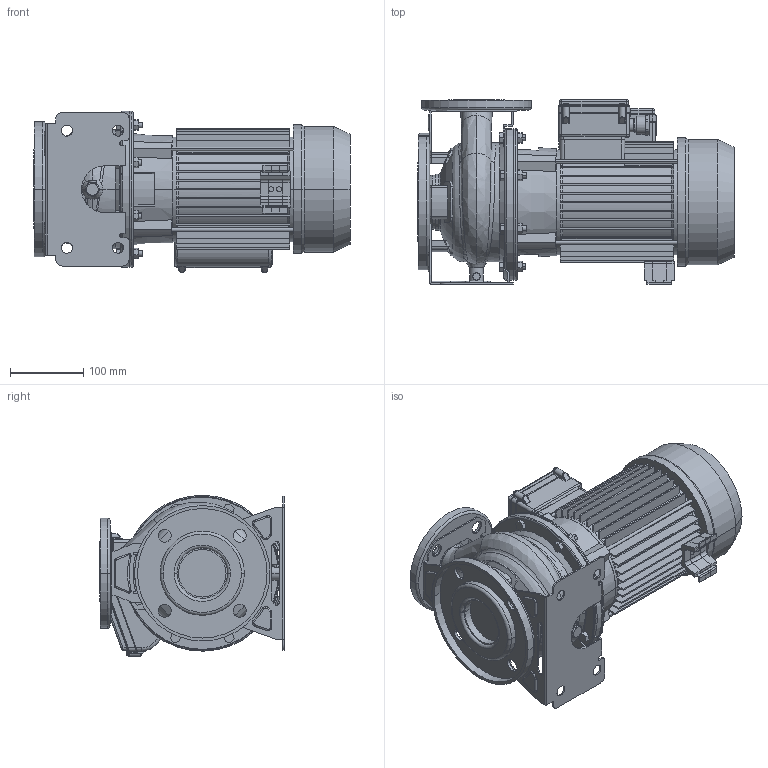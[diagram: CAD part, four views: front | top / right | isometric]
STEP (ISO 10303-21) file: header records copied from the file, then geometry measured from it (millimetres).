
FILE_DESCRIPTION((''),'2;1');
FILE_NAME('3M_40-125_2_2_M_ASM','2016-09-16T',('rosa'),('"Ebara Pumps Europe +39.444.706811"'),'PRO/ENGINEER BY PARAMETRIC TECHNOLOGY CORPORATION, 2012130','PRO/ENGINEER BY PARAMETRIC TECHNOLOGY CORPORATION, 2012130','');
FILE_SCHEMA(('AUTOMOTIVE_DESIGN { 1 0 10303 214 1 1 1 1 }'));
Length unit declared in the file: millimetre
Products named in the file (12): CORPO_40-125_AF0; ASP_40-125; FLANGIA_DIN_65; MAND_40-125; FLANGIA_DIN_40; BASE_3M_40-125; CORPO_SALDATO_40-125_ASM; SUPPORTO_3M_160_90; MEC_90X120_M; SOSTEGNO_72009; COPRIMORSETTIERA_MEC80_90_M; 3M_40-125_2_2_M_ASM
Assembly tree (12 placements, depth 3):
  3M_40-125_2_2_M_ASM
    CORPO_SALDATO_40-125_ASM
      CORPO_40-125_AF0
      ASP_40-125
      FLANGIA_DIN_65
      MAND_40-125
      FLANGIA_DIN_40
      BASE_3M_40-125
    SUPPORTO_3M_160_90
    MEC_90X120_M
    SOSTEGNO_72009  x2
    COPRIMORSETTIERA_MEC80_90_M
Bounding box: 432 x 252 x 220.48 mm (x, y, z)
Volume: 7085068.2 mm3; surface area: 989995.5 mm2
Topology: 14 solids, 14 shells, 1305 faces, 3288 edges, 2063 vertices
Faces by surface type: plane 602, cylinder 436, cone 98, torus 85, bspline 76, sphere 8
Entity records: 55417 total; most frequent: CARTESIAN_POINT 12833, DIRECTION 6462, ORIENTED_EDGE 6392, PRESENTATION_STYLE_ASSIGNMENT 3209, STYLED_ITEM 3209, CURVE_STYLE 3196, EDGE_CURVE 3196, AXIS2_PLACEMENT_3D 2406
